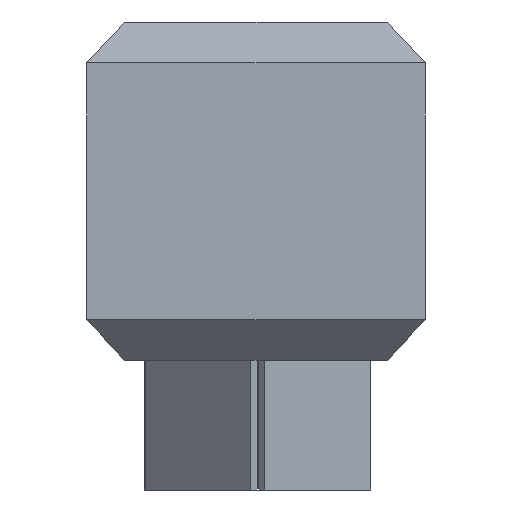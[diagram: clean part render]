
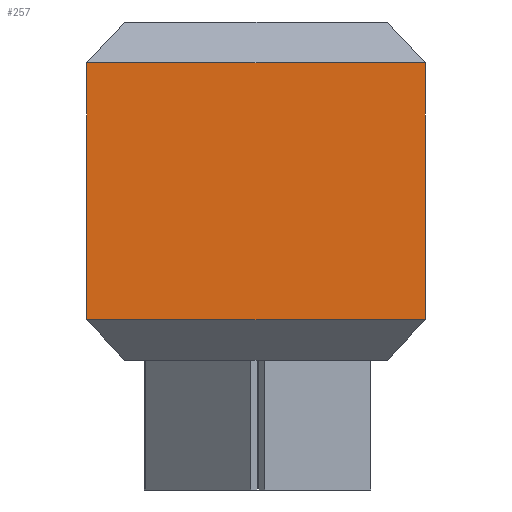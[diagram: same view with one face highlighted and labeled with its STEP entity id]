
A CAD part, front view. The second image highlights one B-rep face of the part: STEP entity #257.
In plain terms, the highlighted planar face has unit normal (0, 1, 0).
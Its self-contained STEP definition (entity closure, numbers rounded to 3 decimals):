
#257=ADVANCED_FACE('',(#348),#1458,.T.);
#348=FACE_OUTER_BOUND('',#439,.T.);
#439=EDGE_LOOP('',(#533,#534,#535,#536));
#533=ORIENTED_EDGE('',*,*,#954,.F.);
#534=ORIENTED_EDGE('',*,*,#957,.T.);
#535=ORIENTED_EDGE('',*,*,#958,.T.);
#536=ORIENTED_EDGE('',*,*,#959,.T.);
#954=EDGE_CURVE('',#1316,#1317,#1172,.T.);
#957=EDGE_CURVE('',#1316,#1319,#1175,.T.);
#958=EDGE_CURVE('',#1319,#1320,#1176,.T.);
#959=EDGE_CURVE('',#1320,#1317,#1177,.T.);
#1172=B_SPLINE_CURVE_WITH_KNOTS('',3,(#1685,#1686,#1687,#1688,#1689,#1690,
#1691),.UNSPECIFIED.,.F.,.F.,(4,3,4),(0.,65.,290.),.UNSPECIFIED.);
#1175=B_SPLINE_CURVE_WITH_KNOTS('',1,(#1698,#1699),.UNSPECIFIED.,.F.,.F.,
(2,2),(-110.,110.),.UNSPECIFIED.);
#1176=B_SPLINE_CURVE_WITH_KNOTS('',3,(#1700,#1701,#1702,#1703,#1704,#1705,
#1706),.UNSPECIFIED.,.F.,.F.,(4,3,4),(-145.041,-80.041,
144.959),.UNSPECIFIED.);
#1177=B_SPLINE_CURVE_WITH_KNOTS('',1,(#1707,#1708),.UNSPECIFIED.,.F.,.F.,
(2,2),(-110.,110.),.UNSPECIFIED.);
#1316=VERTEX_POINT('',#1666);
#1317=VERTEX_POINT('',#1667);
#1319=VERTEX_POINT('',#1669);
#1320=VERTEX_POINT('',#1670);
#1458=PLANE('',#1523);
#1523=AXIS2_PLACEMENT_3D('',#1654,#1588,$);
#1588=DIRECTION('',(0.,1.,0.));
#1654=CARTESIAN_POINT('',(49.969,-162.5,345.));
#1666=CARTESIAN_POINT('',(339.969,-162.5,345.));
#1667=CARTESIAN_POINT('',(49.969,-162.5,345.));
#1669=CARTESIAN_POINT('',(339.969,-162.5,125.));
#1670=CARTESIAN_POINT('',(49.969,-162.5,125.));
#1685=CARTESIAN_POINT('',(339.969,-162.5,345.));
#1686=CARTESIAN_POINT('',(318.303,-162.5,345.));
#1687=CARTESIAN_POINT('',(296.636,-162.5,345.));
#1688=CARTESIAN_POINT('',(274.969,-162.5,345.));
#1689=CARTESIAN_POINT('',(199.942,-162.5,345.));
#1690=CARTESIAN_POINT('',(124.899,-162.5,345.));
#1691=CARTESIAN_POINT('',(49.969,-162.5,345.));
#1698=CARTESIAN_POINT('',(339.969,-162.5,345.));
#1699=CARTESIAN_POINT('',(339.969,-162.5,125.));
#1700=CARTESIAN_POINT('',(339.969,-162.5,125.));
#1701=CARTESIAN_POINT('',(318.303,-162.5,125.));
#1702=CARTESIAN_POINT('',(296.636,-162.5,125.));
#1703=CARTESIAN_POINT('',(274.969,-162.5,125.));
#1704=CARTESIAN_POINT('',(199.942,-162.5,125.));
#1705=CARTESIAN_POINT('',(124.899,-162.5,125.));
#1706=CARTESIAN_POINT('',(49.969,-162.5,125.));
#1707=CARTESIAN_POINT('',(49.969,-162.5,125.));
#1708=CARTESIAN_POINT('',(49.969,-162.5,345.));
